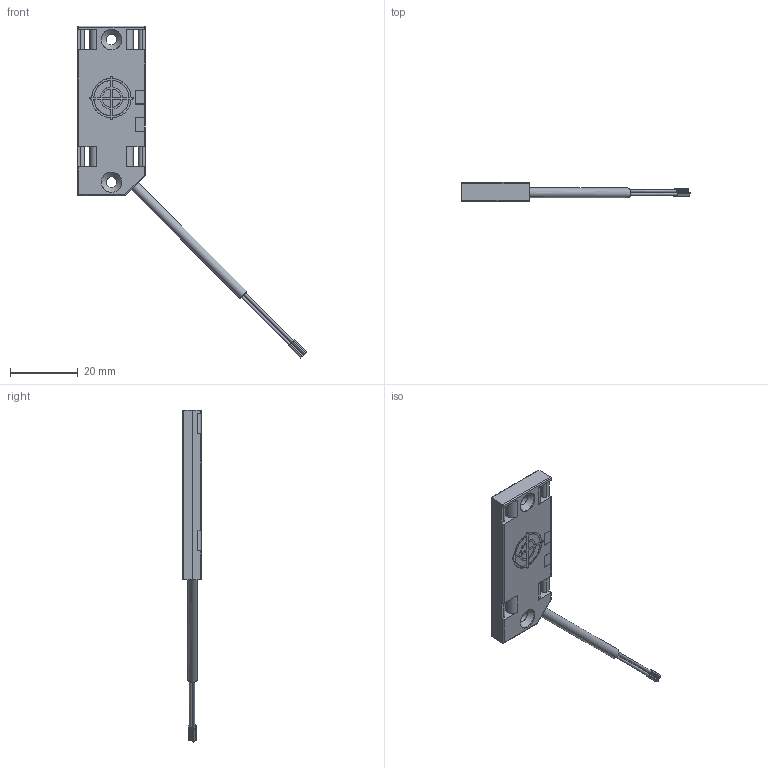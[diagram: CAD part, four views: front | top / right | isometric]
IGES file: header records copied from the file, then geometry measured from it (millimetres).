
Global section: file name: E:\lem\3DCAD_LCS-1Q54P-F10xxx-K020P.igs; native system: NX V8.5; preprocessor: SIEMENS PLM Software NX 8.5; date: 20170329.095623; units: millimetre
Bounding box: 67.43 x 5.53 x 97.78 mm (x, y, z)
Surface area: 3658.9 mm2 (no closed solid volume)
Topology: 0 solids, 0 shells, 204 faces, 1280 edges, 1277 vertices
Faces by surface type: bspline 204
